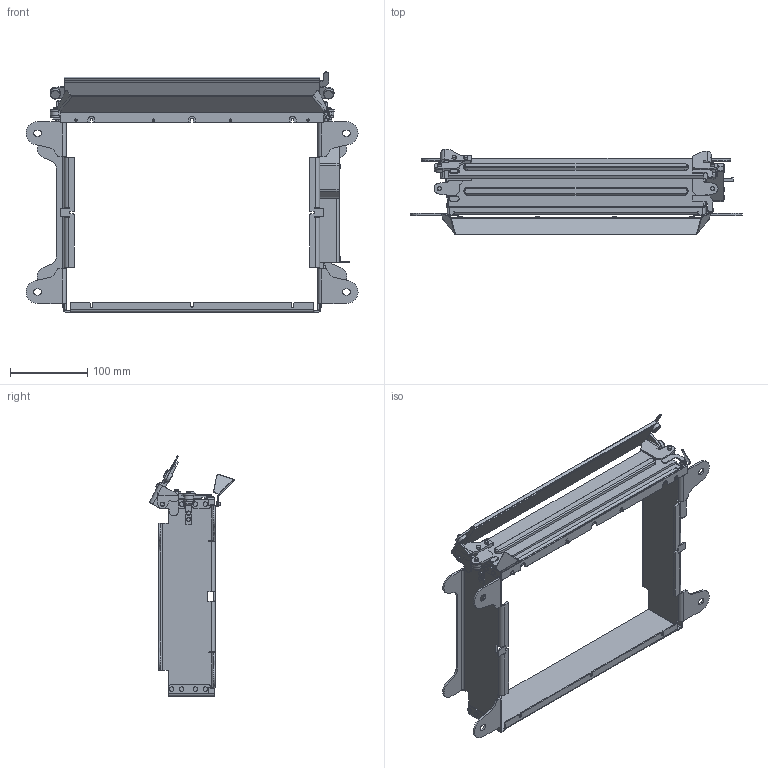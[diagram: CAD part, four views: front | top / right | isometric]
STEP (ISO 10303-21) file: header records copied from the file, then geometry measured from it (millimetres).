
FILE_DESCRIPTION (( 'STEP AP203' ), '1' );
FILE_NAME ('Asyril_PLATFORM FRAME LEFT PURGE H=60mm - 380_000.103.760_(option).STEP', '2020-10-08T12:54:25', ( '' ), ( '' ), 'SwSTEP 2.0', 'SolidWorks 2017', '' );
FILE_SCHEMA (( 'CONFIG_CONTROL_DESIGN' ));
Length unit declared in the file: millimetre
Products named in the file (3): Asyril_PLATFORM FRAME LEFT PURGE H=60mm - 380_000.103.760_OPEN_(option); Asyril_PLATFORM FRAME LEFT PURGE H=60mm - 380_000.103.760_(option); Asyril_PLATFORM FRAME LEFT PURGE H=60mm - 380_000.103.760_CLOSED_(option)
Assembly tree (2 placements, depth 2):
  Asyril_PLATFORM FRAME LEFT PURGE H=60mm - 380_000.103.760_(option)
    Asyril_PLATFORM FRAME LEFT PURGE H=60mm - 380_000.103.760_CLOSED_(option)
    Asyril_PLATFORM FRAME LEFT PURGE H=60mm - 380_000.103.760_OPEN_(option)
Bounding box: 428.99 x 110.28 x 310.31 mm (x, y, z)
Volume: 882720.7 mm3; surface area: 511078 mm2
Topology: 4 solids, 12 shells, 1990 faces, 5015 edges, 3145 vertices
Faces by surface type: plane 969, cylinder 765, cone 148, torus 76, bspline 32
Entity records: 61661 total; most frequent: CARTESIAN_POINT 12271, DIRECTION 10800, ORIENTED_EDGE 10030, EDGE_CURVE 5015, AXIS2_PLACEMENT_3D 3954, VERTEX_POINT 3145, VECTOR 2892, LINE 2892
